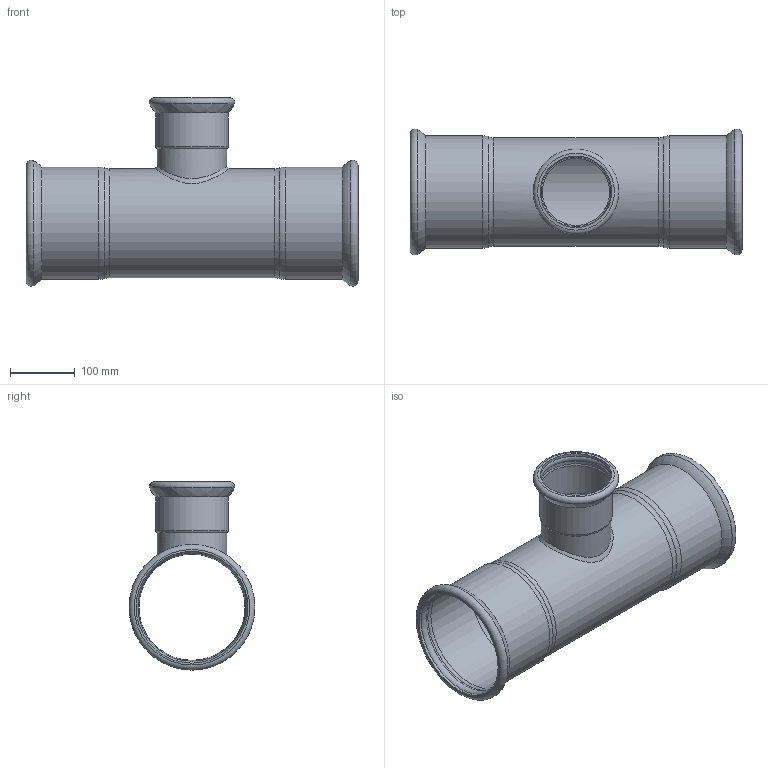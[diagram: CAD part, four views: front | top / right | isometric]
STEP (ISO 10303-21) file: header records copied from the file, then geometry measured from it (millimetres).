
FILE_DESCRIPTION(/* description */ (''),/* implementation_level */ '2;1');
FILE_NAME(/* name */ 'R:\Disegni3D_Area_Manager\Inoxpres.step\192_INOXPRES\192168108_Inoxpres.stp',/* time_stamp */ '2022-10-12T11:07:07+02:00',/* author */ ('Vault'),/* organization */ ('Raccorderie metalliche s.p.a. '),/* preprocessor_version */ 'ST-DEVELOPER v18.1',/* originating_system */ 'Autodesk Inventor 2020',/* authorisation */ 'Raccorderie metalliche s.p.a. ');
FILE_SCHEMA (('AUTOMOTIVE_DESIGN { 1 0 10303 214 3 1 1 }'));
Length unit declared in the file: millimetre
Products named in the file (1): 192168108_Inoxpres
Bounding box: 514 x 194.77 x 291.54 mm (x, y, z)
Volume: 853751.1 mm3; surface area: 632583.8 mm2
Topology: 1 solids, 1 shells, 44 faces, 149 edges, 107 vertices
Faces by surface type: torus 21, cylinder 16, bspline 4, plane 2, cone 1
Full cylindrical faces by diameter (mm): 104 x1, 108 x1, 108.8 x1, 110.7 x2, 112.8 x1, 164.3 x1, 168.3 x1, 170 x2, 173 x4, 174 x2
Entity records: 2640 total; most frequent: CARTESIAN_POINT 1192, DIRECTION 338, ORIENTED_EDGE 298, AXIS2_PLACEMENT_3D 159, EDGE_CURVE 149, CIRCLE 118, VERTEX_POINT 107, EDGE_LOOP 48
